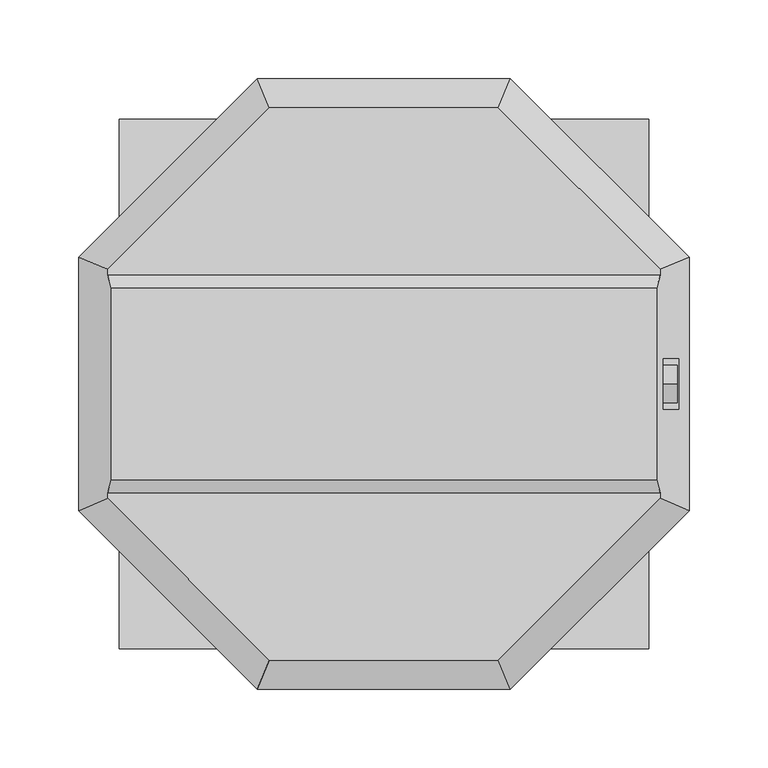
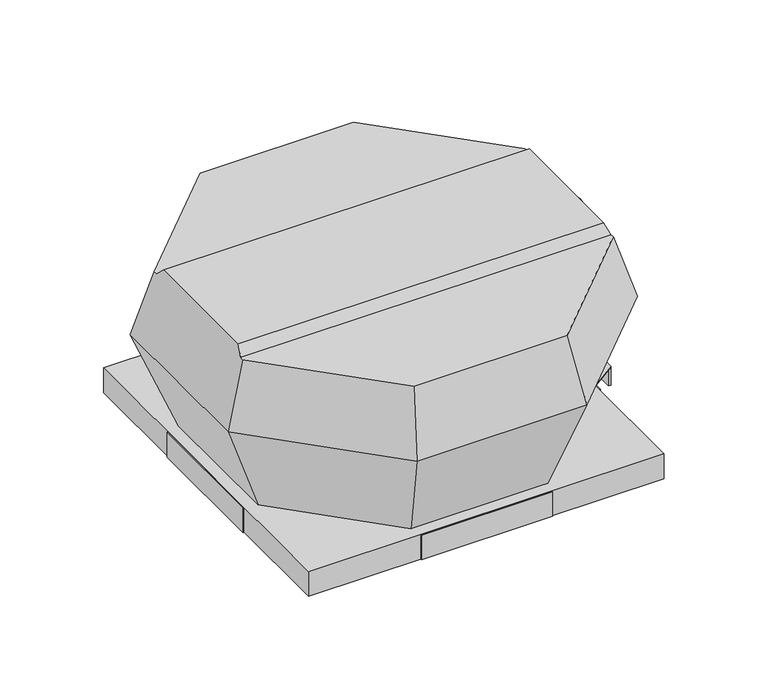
"""IFC4 building model written with IfcOpenShell, lengths in millimetres: unitary equipment geometry, VE-Wentylator-ParaForma-Harmann-VIVER_PS-Wywiewny : 2-190/450S."""

from ifc_helpers import new_model, si_unit, point, frame, frame_2d, origin, place, context, project, spatial, circle_curve, trimmed, segment, composite_curve, outline, extrude, faceted_brep, source, transform, mapped, element, save


def unitary_equipment_a59a2d30(model_context):
    return source(origin(), model_context, "Body", "SolidModel", [
        faceted_brep([(173.5597397, -61.0, 166.2), (173.5597397, 61.0, 166.2), (-173.5597397, 61.0, 166.2), (-173.5597397, -61.0, 166.2), (175.9961687, 69.1, 158.1), (-175.9961687, 69.1, 158.1), (175.9961687, -69.1, 158.1), (-175.9961687, -69.1, 158.1), (72.9, -175.9961687, 158.1), (175.9961687, -72.9, 158.1), (-175.9961687, -72.9, 158.1), (-72.9, -175.9961687, 158.1), (175.9961687, 72.9, 158.1), (72.9, 175.9961687, 158.1), (-72.9, 175.9961687, 158.1), (-175.9961687, 72.9, 158.1), (80.55, -194.4649024, 96.7), (194.4649024, -80.55, 96.7), (194.4649024, 80.55, 96.7), (187.7872821, -16.0, 118.9), (177.8310103, -16.0, 152.0), (177.8310103, 16.0, 152.0), (187.7872821, 16.0, 118.9), (80.55, 194.4649024, 96.7), (-80.55, 194.4649024, 96.7), (-194.4649024, 80.55, 96.7), (-194.4649024, -80.55, 96.7), (-80.55, -194.4649024, 96.7), (176.8, -16.0, 118.9), (176.8, 16.0, 118.9), (176.8, 16.0, 152.0), (176.8, -16.0, 152.0), (65.1, -157.1653029, 1.0), (-65.1, -157.1653029, 1.0), (-157.1653029, -65.1, 1.0), (-157.1653029, 65.1, 1.0), (-65.1, 157.1653029, 1.0), (65.1, 157.1653029, 1.0), (157.1653029, 65.1, 1.0), (157.1653029, -65.1, 1.0)], [[[0, 1, 2, 3]], [[1, 4, 5, 2]], [[6, 0, 3, 7]], [[8, 9, 6, 7, 10, 11]], [[12, 13, 14, 15, 5, 4]], [[9, 8, 16, 17]], [[9, 17, 18, 12, 4, 1, 0, 6], [19, 20, 21, 22]], [[13, 12, 18, 23]], [[14, 13, 23, 24]], [[15, 14, 24, 25]], [[15, 25, 26, 10, 7, 3, 2, 5]], [[11, 10, 26, 27]], [[8, 11, 27, 16]], [[28, 29, 30, 31]], [[28, 31, 20, 19]], [[31, 30, 21, 20]], [[30, 29, 22, 21]], [[29, 28, 19, 22]], [[32, 33, 34, 35, 36, 37, 38, 39]], [[32, 39, 17, 16]], [[39, 38, 18, 17]], [[38, 37, 23, 18]], [[37, 36, 24, 23]], [[36, 35, 25, 24]], [[35, 34, 26, 25]], [[34, 33, 27, 26]], [[33, 32, 16, 27]]]),
        faceted_brep([(167.6, 167.6, -24.0), (167.6, 167.6, 0.0), (-167.6, 167.6, 0.0), (-167.6, 167.6, -24.0), (168.6, 168.6, 1.0), (168.6, 168.6, -24.0), (-168.6, 168.6, -24.0), (-168.6, 168.6, 1.0), (-167.6, -167.6, 0.0), (-167.6, -167.6, -24.0), (-168.6, -168.6, -24.0), (-168.6, -168.6, 1.0), (167.6, -167.6, 0.0), (167.6, -167.6, -24.0), (168.6, -168.6, -24.0), (168.6, -168.6, 1.0)], [[[0, 1, 2, 3]], [[4, 5, 6, 7]], [[3, 2, 8, 9]], [[7, 6, 10, 11]], [[9, 8, 12, 13]], [[11, 10, 14, 15]], [[13, 12, 1, 0]], [[5, 14, 10, 6], [3, 9, 13, 0]], [[15, 14, 5, 4]], [[7, 11, 15, 4]], [[1, 12, 8, 2]]]),
        extrude(outline(composite_curve([segment(trimmed(circle_curve(frame_2d((0.0, 136.4)), 12.0), [point((0.0, 148.4))], [point((0.0, 124.4))], False, "CARTESIAN"), True, "CONTINUOUS"), segment(trimmed(circle_curve(frame_2d((0.0, 136.4)), 12.0), [point((0.0, 124.4))], [point((0.0, 148.4))], False, "CARTESIAN"), True, "CONTINUOUS")], self_intersect=False)), frame((176.8, 0.0, 0.0), z_axis=(1.0, 0.0, 0.0), x_axis=(0.0, 1.0, 0.0)), (0.0, 0.0, 1.0), 10.0),
        faceted_brep([(-168.6, -62.3, -24.0), (-169.6, -62.3, -24.0), (-169.6, 62.3, -24.0), (-168.6, 62.3, -24.0), (-168.6, -62.3, 1.0), (-168.6, 62.3, 1.0), (-169.6, 62.3, 1.0), (-169.6, -62.3, 1.0)], [[[0, 1, 2, 3]], [[4, 5, 6, 7]], [[1, 0, 4, 7]], [[2, 1, 7, 6]], [[3, 2, 6, 5]], [[0, 3, 5, 4]]]),
        faceted_brep([(169.6, -62.3, -24.0), (168.6, -62.3, -24.0), (168.6, 62.3, -24.0), (169.6, 62.3, -24.0), (169.6, 62.3, 1.0), (168.6, 62.3, 1.0), (168.6, -62.3, 1.0), (169.6, -62.3, 1.0), (169.6, -54.8, 1.0), (193.6, -38.0, 1.0), (193.6, 38.0, 1.0), (169.6, 54.8, 1.0), (169.6, 54.8, 0.0), (169.6, -54.8, 0.0), (193.6, 38.0, 0.0), (191.5, 38.0, 0.0), (191.5, -38.0, 0.0), (193.6, -38.0, 0.0), (193.6, -38.0, -18.0), (193.6, 38.0, -18.0), (191.5, -38.0, -18.0), (191.5, 38.0, -18.0)], [[[0, 1, 2, 3]], [[4, 5, 6, 7, 8, 9, 10, 11]], [[1, 0, 7, 6]], [[2, 1, 6, 5]], [[3, 2, 5, 4]], [[0, 3, 4, 11, 12, 13, 8, 7]], [[12, 14, 15, 16, 17, 13]], [[14, 12, 11, 10]], [[10, 9, 17, 18, 19, 14]], [[13, 17, 9, 8]], [[20, 16, 15, 21]], [[16, 20, 18, 17]], [[21, 15, 14, 19]], [[20, 21, 19, 18]]]),
        faceted_brep([(62.3, 168.6, -24.0), (-62.3, 168.6, -24.0), (-62.3, 169.6, -24.0), (62.3, 169.6, -24.0), (62.3, 168.6, 1.0), (62.3, 169.6, 1.0), (-62.3, 169.6, 1.0), (-62.3, 168.6, 1.0)], [[[0, 1, 2, 3]], [[4, 5, 6, 7]], [[1, 0, 4, 7]], [[2, 1, 7, 6]], [[3, 2, 6, 5]], [[0, 3, 5, 4]]]),
        faceted_brep([(62.3, -169.6, -24.0), (-62.3, -169.6, -24.0), (-62.3, -168.6, -24.0), (62.3, -168.6, -24.0), (62.3, -169.6, 1.0), (62.3, -168.6, 1.0), (-62.3, -168.6, 1.0), (-62.3, -169.6, 1.0)], [[[0, 1, 2, 3]], [[4, 5, 6, 7]], [[1, 0, 4, 7]], [[2, 1, 7, 6]], [[3, 2, 6, 5]], [[0, 3, 5, 4]]]),
    ])


if __name__ == "__main__":
    model = new_model("IFC4")
    model_context = context("Model", 3, world=origin())
    ifc_project = project(units=[si_unit("LENGTHUNIT", "METRE", prefix="MILLI")], contexts=[model_context])
    site = spatial("IfcSite", under=ifc_project)
    building = spatial("IfcBuilding", under=site)
    placement = place(None, origin())
    unitary_equipment_shape = unitary_equipment_a59a2d30(model_context)
    element("IfcUnitaryEquipment", 1, ObjectType="VE-Wentylator-ParaForma-Harmann-VIVER_PS-Wywiewny : 2-190/450S", at=placement, inside=building, context=model_context, shape_type="MappedRepresentation", body=[
        mapped(unitary_equipment_shape, transform((0.0, 0.0, 0.0), x_axis=(1.0, 0.0, 0.0), y_axis=(0.0, 1.0, 0.0), z_axis=(0.0, 0.0, 1.0))),
    ])
    save(model, "model.ifc")
